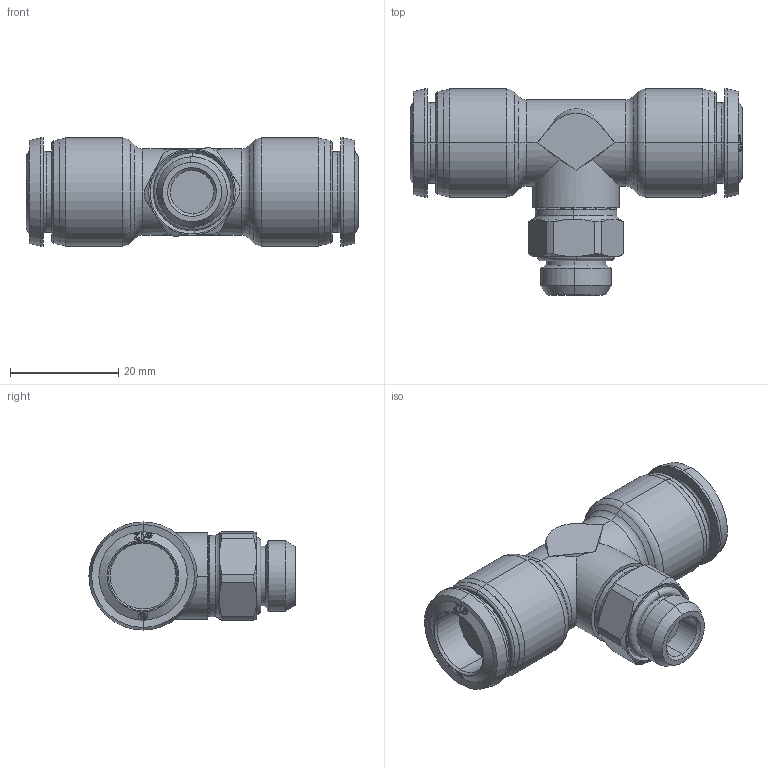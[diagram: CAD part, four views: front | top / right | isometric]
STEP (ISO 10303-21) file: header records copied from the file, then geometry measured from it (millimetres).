
FILE_DESCRIPTION (( 'STEP AP214' ), '1' );
FILE_NAME ('55216000024.step', '2012-10-02T17:41:05', ( '' ), ( '' ), 'SwSTEP 2.0', 'SolidWorks 2012', '' );
FILE_SCHEMA (( 'AUTOMOTIVE_DESIGN' ));
Length unit declared in the file: millimetre
Products named in the file (1): 55216000024
Bounding box: 61.4 x 38.1 x 20 mm (x, y, z)
Volume: 18046.6 mm3; surface area: 6889.4 mm2
Topology: 2 solids, 2 shells, 291 faces, 704 edges, 438 vertices
Faces by surface type: bspline 108, cone 80, cylinder 35, torus 34, plane 34
Entity records: 17088 total; most frequent: CARTESIAN_POINT 8018, ORIENTED_EDGE 1408, DIRECTION 876, EDGE_CURVE 704, VERTEX_POINT 438, AXIS2_PLACEMENT_3D 382, B_SPLINE_CURVE_WITH_KNOTS 378, EDGE_LOOP 314
